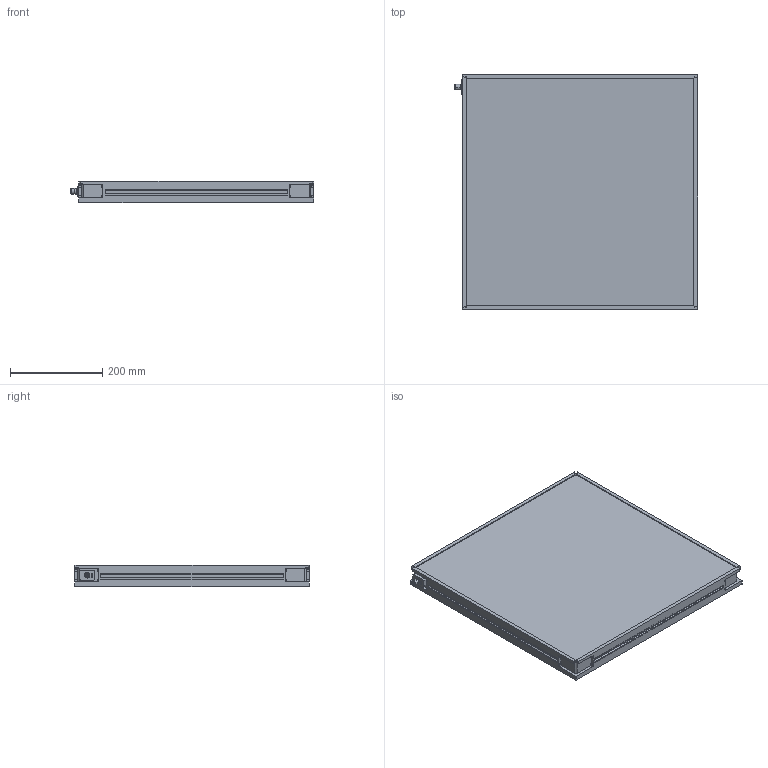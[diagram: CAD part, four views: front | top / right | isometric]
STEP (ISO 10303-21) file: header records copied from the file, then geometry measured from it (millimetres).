
FILE_DESCRIPTION (( 'STEP AP214' ), '1' );
FILE_NAME ('MBACK-xxxx-xxx-M1_CLIENT500x500.STEP', '2022-03-31T16:19:09', ( '' ), ( '' ), 'SwSTEP 2.0', 'SolidWorks 2020', '' );
FILE_SCHEMA (( 'AUTOMOTIVE_DESIGN' ));
Length unit declared in the file: millimetre
Products named in the file (1): MBACK-xxxx-xxx-M1_CLIENT500x500
Bounding box: 525.9 x 508 x 45.5 mm (x, y, z)
Volume: 10698471.5 mm3; surface area: 650895.2 mm2
Topology: 1 solids, 1 shells, 442 faces, 1144 edges, 760 vertices
Faces by surface type: plane 249, cylinder 105, bspline 80, cone 8
Entity records: 17236 total; most frequent: CARTESIAN_POINT 6699, ORIENTED_EDGE 2288, DIRECTION 1936, EDGE_CURVE 1144, VERTEX_POINT 760, VECTOR 758, LINE 758, AXIS2_PLACEMENT_3D 589
